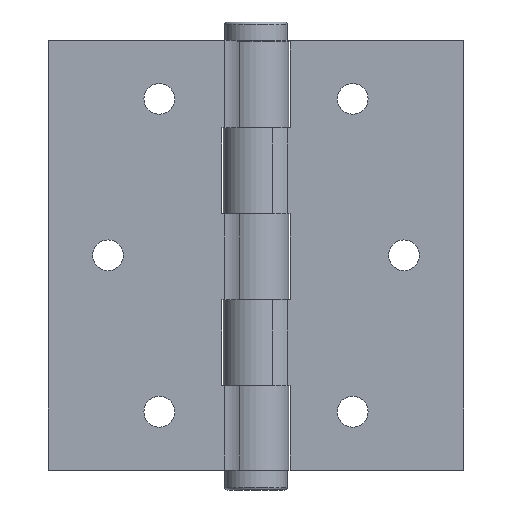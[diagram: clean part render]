
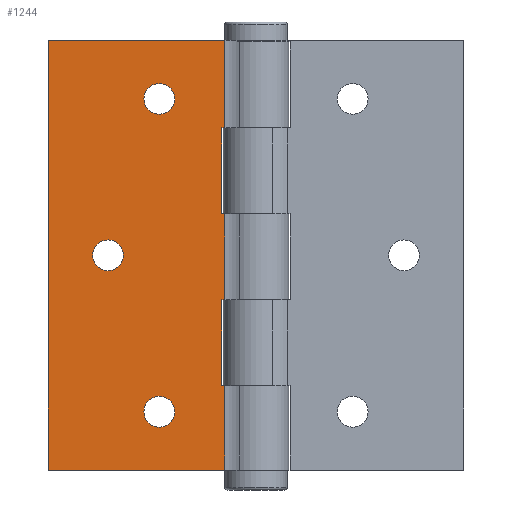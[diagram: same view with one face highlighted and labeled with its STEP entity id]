
A CAD part, front view. The second image highlights one B-rep face of the part: STEP entity #1244.
In plain terms, the highlighted planar face has unit normal (0, -1, 0).
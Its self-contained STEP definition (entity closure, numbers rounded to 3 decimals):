
#60=FACE_BOUND('',#173,.T.);
#61=FACE_BOUND('',#174,.T.);
#62=FACE_BOUND('',#175,.T.);
#97=FACE_OUTER_BOUND('',#172,.T.);
#172=EDGE_LOOP('',(#892,#893,#894,#895,#896,#897,#898,#899,#900,#901,#902,
#903));
#173=EDGE_LOOP('',(#904));
#174=EDGE_LOOP('',(#905));
#175=EDGE_LOOP('',(#906));
#288=CIRCLE('',#1340,2.7);
#289=CIRCLE('',#1341,2.7);
#290=CIRCLE('',#1342,2.7);
#346=LINE('',#1872,#448);
#350=LINE('',#1888,#452);
#353=LINE('',#1894,#455);
#356=LINE('',#1909,#458);
#360=LINE('',#1925,#462);
#363=LINE('',#1931,#465);
#366=LINE('',#1944,#468);
#367=LINE('',#1946,#469);
#368=LINE('',#1948,#470);
#369=LINE('',#1950,#471);
#370=LINE('',#1952,#472);
#371=LINE('',#1953,#473);
#448=VECTOR('',#1470,0.523);
#452=VECTOR('',#1484,15.1);
#455=VECTOR('',#1489,0.523);
#458=VECTOR('',#1502,0.523);
#462=VECTOR('',#1516,15.1);
#465=VECTOR('',#1521,0.523);
#468=VECTOR('',#1534,15.1);
#469=VECTOR('',#1535,15.35);
#470=VECTOR('',#1536,31.023);
#471=VECTOR('',#1537,75.5);
#472=VECTOR('',#1538,31.023);
#473=VECTOR('',#1539,14.85);
#550=VERTEX_POINT('',#1870);
#551=VERTEX_POINT('',#1871);
#558=VERTEX_POINT('',#1887);
#560=VERTEX_POINT('',#1893);
#566=VERTEX_POINT('',#1907);
#567=VERTEX_POINT('',#1908);
#574=VERTEX_POINT('',#1924);
#576=VERTEX_POINT('',#1930);
#582=VERTEX_POINT('',#1945);
#583=VERTEX_POINT('',#1947);
#584=VERTEX_POINT('',#1949);
#585=VERTEX_POINT('',#1951);
#586=VERTEX_POINT('',#1954);
#587=VERTEX_POINT('',#1956);
#588=VERTEX_POINT('',#1958);
#676=EDGE_CURVE('',#550,#551,#346,.T.);
#684=EDGE_CURVE('',#558,#550,#350,.T.);
#687=EDGE_CURVE('',#560,#558,#353,.T.);
#694=EDGE_CURVE('',#566,#567,#356,.T.);
#702=EDGE_CURVE('',#574,#566,#360,.T.);
#705=EDGE_CURVE('',#576,#574,#363,.T.);
#712=EDGE_CURVE('',#576,#551,#366,.T.);
#713=EDGE_CURVE('',#582,#567,#367,.T.);
#714=EDGE_CURVE('',#583,#582,#368,.T.);
#715=EDGE_CURVE('',#584,#583,#369,.T.);
#716=EDGE_CURVE('',#585,#584,#370,.T.);
#717=EDGE_CURVE('',#560,#585,#371,.T.);
#718=EDGE_CURVE('',#586,#586,#288,.T.);
#719=EDGE_CURVE('',#587,#587,#289,.T.);
#720=EDGE_CURVE('',#588,#588,#290,.T.);
#892=ORIENTED_EDGE('',*,*,#687,.T.);
#893=ORIENTED_EDGE('',*,*,#684,.T.);
#894=ORIENTED_EDGE('',*,*,#676,.T.);
#895=ORIENTED_EDGE('',*,*,#712,.F.);
#896=ORIENTED_EDGE('',*,*,#705,.T.);
#897=ORIENTED_EDGE('',*,*,#702,.T.);
#898=ORIENTED_EDGE('',*,*,#694,.T.);
#899=ORIENTED_EDGE('',*,*,#713,.F.);
#900=ORIENTED_EDGE('',*,*,#714,.F.);
#901=ORIENTED_EDGE('',*,*,#715,.F.);
#902=ORIENTED_EDGE('',*,*,#716,.F.);
#903=ORIENTED_EDGE('',*,*,#717,.F.);
#904=ORIENTED_EDGE('',*,*,#718,.T.);
#905=ORIENTED_EDGE('',*,*,#719,.T.);
#906=ORIENTED_EDGE('',*,*,#720,.T.);
#1210=PLANE('',#1339);
#1244=ADVANCED_FACE('',(#97,#60,#61,#62),#1210,.T.);
#1339=AXIS2_PLACEMENT_3D('',#1943,#1532,#1533);
#1340=AXIS2_PLACEMENT_3D('',#1955,#1540,#1541);
#1341=AXIS2_PLACEMENT_3D('',#1957,#1542,#1543);
#1342=AXIS2_PLACEMENT_3D('',#1959,#1544,#1545);
#1470=DIRECTION('',(1.,0.,0.));
#1484=DIRECTION('',(0.,0.,1.));
#1489=DIRECTION('',(-1.,0.,0.));
#1502=DIRECTION('',(1.,0.,0.));
#1516=DIRECTION('',(0.,0.,1.));
#1521=DIRECTION('',(-1.,0.,0.));
#1532=DIRECTION('center_axis',(0.,-1.,0.));
#1533=DIRECTION('ref_axis',(1.,0.,0.));
#1534=DIRECTION('',(0.,0.,-1.));
#1535=DIRECTION('',(0.,0.,-1.));
#1536=DIRECTION('',(1.,0.,0.));
#1537=DIRECTION('',(0.,0.,1.));
#1538=DIRECTION('',(-1.,0.,0.));
#1539=DIRECTION('',(0.,0.,-1.));
#1540=DIRECTION('center_axis',(0.,1.,0.));
#1541=DIRECTION('ref_axis',(1.,0.,0.));
#1542=DIRECTION('center_axis',(0.,1.,0.));
#1543=DIRECTION('ref_axis',(1.,0.,0.));
#1544=DIRECTION('center_axis',(0.,1.,0.));
#1545=DIRECTION('ref_axis',(1.,0.,0.));
#1870=CARTESIAN_POINT('',(-6.,-4.25,-7.8));
#1871=CARTESIAN_POINT('',(-5.477,-4.25,-7.8));
#1872=CARTESIAN_POINT('',(-15.25,-4.25,-7.8));
#1887=CARTESIAN_POINT('',(-6.,-4.25,-22.9));
#1888=CARTESIAN_POINT('',(-6.,-4.25,-3.9));
#1893=CARTESIAN_POINT('',(-5.477,-4.25,-22.9));
#1894=CARTESIAN_POINT('',(-21.25,-4.25,-22.9));
#1907=CARTESIAN_POINT('',(-6.,-4.25,22.4));
#1908=CARTESIAN_POINT('',(-5.477,-4.25,22.4));
#1909=CARTESIAN_POINT('',(-15.25,-4.25,22.4));
#1924=CARTESIAN_POINT('',(-6.,-4.25,7.3));
#1925=CARTESIAN_POINT('',(-6.,-4.25,11.2));
#1930=CARTESIAN_POINT('',(-5.477,-4.25,7.3));
#1931=CARTESIAN_POINT('',(-21.25,-4.25,7.3));
#1943=CARTESIAN_POINT('Origin',(-36.5,-4.25,0.));
#1944=CARTESIAN_POINT('',(-5.477,-4.25,0.));
#1945=CARTESIAN_POINT('',(-5.477,-4.25,37.75));
#1946=CARTESIAN_POINT('',(-5.477,-4.25,0.));
#1947=CARTESIAN_POINT('',(-36.5,-4.25,37.75));
#1948=CARTESIAN_POINT('',(-36.5,-4.25,37.75));
#1949=CARTESIAN_POINT('',(-36.5,-4.25,-37.75));
#1950=CARTESIAN_POINT('',(-36.5,-4.25,0.));
#1951=CARTESIAN_POINT('',(-5.477,-4.25,-37.75));
#1952=CARTESIAN_POINT('',(-36.5,-4.25,-37.75));
#1953=CARTESIAN_POINT('',(-5.477,-4.25,0.));
#1954=CARTESIAN_POINT('',(-19.7,-4.25,27.5));
#1955=CARTESIAN_POINT('Origin',(-17.,-4.25,27.5));
#1956=CARTESIAN_POINT('',(-19.7,-4.25,-27.5));
#1957=CARTESIAN_POINT('Origin',(-17.,-4.25,-27.5));
#1958=CARTESIAN_POINT('',(-28.7,-4.25,0.));
#1959=CARTESIAN_POINT('Origin',(-26.,-4.25,0.));
